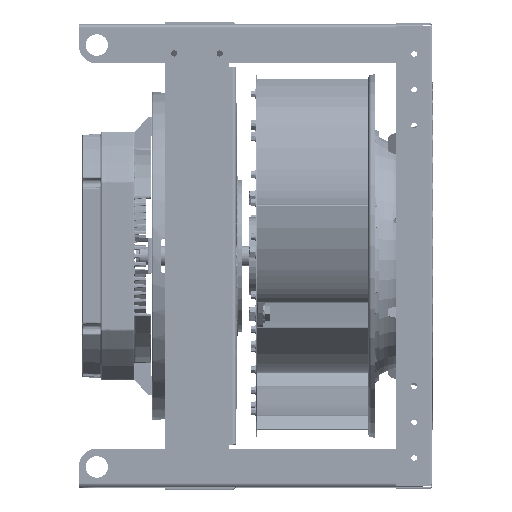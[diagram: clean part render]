
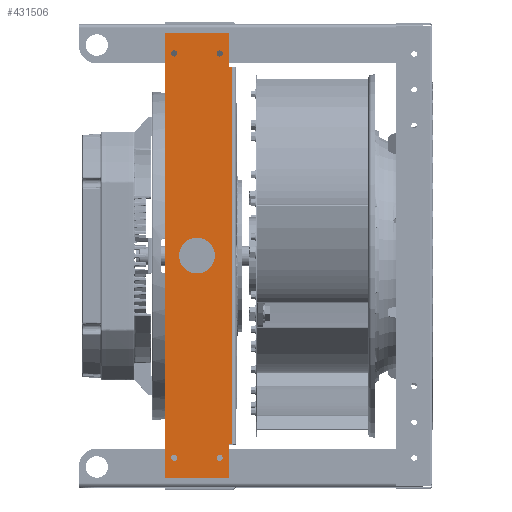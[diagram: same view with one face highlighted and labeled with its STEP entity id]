
A CAD part, top view. The second image highlights one B-rep face of the part: STEP entity #431506.
In plain terms, the highlighted planar face has unit normal (0, 0, 1).
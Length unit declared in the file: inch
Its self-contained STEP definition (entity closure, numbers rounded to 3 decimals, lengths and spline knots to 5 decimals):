
#10918 = DIRECTION ( 'NONE',  ( -1., 0., 0. ) ) ;
#25662 = LINE ( 'NONE', #335370, #49046 ) ;
#29408 = ORIENTED_EDGE ( 'NONE', *, *, #296451, .F. ) ;
#30970 = CIRCLE ( 'NONE', #365415, 1. ) ;
#44627 = VERTEX_POINT ( 'NONE', #279537 ) ;
#48975 = CARTESIAN_POINT ( 'NONE',  ( 0., 0., 0.135 ) ) ;
#48988 = VECTOR ( 'NONE', #316501, 39.37008 ) ;
#49046 = VECTOR ( 'NONE', #55315, 39.37008 ) ;
#53226 = DIRECTION ( 'NONE',  ( -1., 0., 0. ) ) ;
#55315 = DIRECTION ( 'NONE',  ( 1., 0., 0. ) ) ;
#60940 = VECTOR ( 'NONE', #216647, 39.37008 ) ;
#77715 = CARTESIAN_POINT ( 'NONE',  ( -12.465, -1.77, 0.135 ) ) ;
#79412 = EDGE_LOOP ( 'NONE', ( #172827 ) ) ;
#83582 = CARTESIAN_POINT ( 'NONE',  ( 1., 0., 0.135 ) ) ;
#83796 = EDGE_LOOP ( 'NONE', ( #279039 ) ) ;
#84730 = CARTESIAN_POINT ( 'NONE',  ( 11.477, -1.27, 0.135 ) ) ;
#98261 = AXIS2_PLACEMENT_3D ( 'NONE', #145083, #247584, #243096 ) ;
#99263 = CARTESIAN_POINT ( 'NONE',  ( -11.477, -1.27, 0.135 ) ) ;
#102566 = DIRECTION ( 'NONE',  ( 0., 0., 1. ) ) ;
#104379 = LINE ( 'NONE', #209139, #161238 ) ;
#106338 = EDGE_CURVE ( 'NONE', #281893, #391996, #248193, .T. ) ;
#120208 = DIRECTION ( 'NONE',  ( 0., 1., 0. ) ) ;
#121708 = ORIENTED_EDGE ( 'NONE', *, *, #106338, .T. ) ;
#123545 = CARTESIAN_POINT ( 'NONE',  ( 11.305, -1.27, 0.135 ) ) ;
#129902 = VECTOR ( 'NONE', #141141, 39.37008 ) ;
#132178 = EDGE_LOOP ( 'NONE', ( #300287 ) ) ;
#137238 = VECTOR ( 'NONE', #198457, 39.37008 ) ;
#141141 = DIRECTION ( 'NONE',  ( 0., -1., 0. ) ) ;
#143554 = CARTESIAN_POINT ( 'NONE',  ( 0., 0., 0.135 ) ) ;
#145083 = CARTESIAN_POINT ( 'NONE',  ( -11.305, 1.27, 0.135 ) ) ;
#149928 = LINE ( 'NONE', #293363, #205772 ) ;
#151532 = FACE_BOUND ( 'NONE', #83796, .T. ) ;
#155795 = DIRECTION ( 'NONE',  ( 0., 0., 1. ) ) ;
#158231 = FACE_BOUND ( 'NONE', #79412, .T. ) ;
#161238 = VECTOR ( 'NONE', #10918, 39.37008 ) ;
#162044 = CARTESIAN_POINT ( 'NONE',  ( 10.555, 1.9775, 0.135 ) ) ;
#164454 = DIRECTION ( 'NONE',  ( 0., 0., 1. ) ) ;
#165399 = VERTEX_POINT ( 'NONE', #99263 ) ;
#169905 = CIRCLE ( 'NONE', #402685, 0.172 ) ;
#172827 = ORIENTED_EDGE ( 'NONE', *, *, #380525, .F. ) ;
#184270 = LINE ( 'NONE', #318670, #129902 ) ;
#186133 = VERTEX_POINT ( 'NONE', #83582 ) ;
#187428 = CARTESIAN_POINT ( 'NONE',  ( 11.305, 1.27, 0.135 ) ) ;
#189674 = DIRECTION ( 'NONE',  ( 0., 0., 1. ) ) ;
#191934 = DIRECTION ( 'NONE',  ( -1., 0., 0. ) ) ;
#192899 = EDGE_CURVE ( 'NONE', #254579, #269865, #25662, .T. ) ;
#196224 = VERTEX_POINT ( 'NONE', #84730 ) ;
#198457 = DIRECTION ( 'NONE',  ( -1., 0., 0. ) ) ;
#202953 = VERTEX_POINT ( 'NONE', #346324 ) ;
#205772 = VECTOR ( 'NONE', #120208, 39.37008 ) ;
#206379 = AXIS2_PLACEMENT_3D ( 'NONE', #187428, #189674, #191934 ) ;
#209139 = CARTESIAN_POINT ( 'NONE',  ( -12.465, 1.77, 0.135 ) ) ;
#216647 = DIRECTION ( 'NONE',  ( 0., -1., 0. ) ) ;
#219886 = DIRECTION ( 'NONE',  ( -1., 0., 0. ) ) ;
#221032 = CIRCLE ( 'NONE', #206379, 0.172 ) ;
#223848 = CIRCLE ( 'NONE', #310959, 0.172 ) ;
#241565 = DIRECTION ( 'NONE',  ( 1., 0., 0. ) ) ;
#243096 = DIRECTION ( 'NONE',  ( 1., 0., 0. ) ) ;
#247584 = DIRECTION ( 'NONE',  ( 0., 0., 1. ) ) ;
#247642 = ORIENTED_EDGE ( 'NONE', *, *, #441876, .T. ) ;
#248193 = LINE ( 'NONE', #314252, #48988 ) ;
#249529 = EDGE_CURVE ( 'NONE', #186133, #186133, #30970, .T. ) ;
#254579 = VERTEX_POINT ( 'NONE', #435412 ) ;
#262993 = FACE_BOUND ( 'NONE', #395055, .T. ) ;
#263399 = CARTESIAN_POINT ( 'NONE',  ( -10.555, 1.9775, 0.135 ) ) ;
#269865 = VERTEX_POINT ( 'NONE', #286259 ) ;
#271854 = ORIENTED_EDGE ( 'NONE', *, *, #249529, .F. ) ;
#273477 = VERTEX_POINT ( 'NONE', #292815 ) ;
#279039 = ORIENTED_EDGE ( 'NONE', *, *, #358984, .F. ) ;
#279537 = CARTESIAN_POINT ( 'NONE',  ( 12.465, 1.77, 0.135 ) ) ;
#281893 = VERTEX_POINT ( 'NONE', #396257 ) ;
#281959 = ORIENTED_EDGE ( 'NONE', *, *, #339928, .T. ) ;
#282708 = ORIENTED_EDGE ( 'NONE', *, *, #366431, .F. ) ;
#286259 = CARTESIAN_POINT ( 'NONE',  ( 12.465, -1.77, 0.135 ) ) ;
#290438 = PLANE ( 'NONE',  #420249 ) ;
#292815 = CARTESIAN_POINT ( 'NONE',  ( 10.555, 1.9775, 0.135 ) ) ;
#293363 = CARTESIAN_POINT ( 'NONE',  ( 12.465, -1.77, 0.135 ) ) ;
#296451 = EDGE_CURVE ( 'NONE', #165399, #165399, #223848, .T. ) ;
#297165 = FACE_OUTER_BOUND ( 'NONE', #353450, .T. ) ;
#300287 = ORIENTED_EDGE ( 'NONE', *, *, #443388, .F. ) ;
#300725 = ORIENTED_EDGE ( 'NONE', *, *, #192899, .T. ) ;
#301962 = LINE ( 'NONE', #370221, #334299 ) ;
#302175 = CIRCLE ( 'NONE', #98261, 0.172 ) ;
#303404 = DIRECTION ( 'NONE',  ( 1., 0., 0. ) ) ;
#305477 = LINE ( 'NONE', #162044, #137238 ) ;
#307696 = ORIENTED_EDGE ( 'NONE', *, *, #355808, .T. ) ;
#310959 = AXIS2_PLACEMENT_3D ( 'NONE', #424682, #155795, #53226 ) ;
#314252 = CARTESIAN_POINT ( 'NONE',  ( -12.465, 1.77, 0.135 ) ) ;
#316501 = DIRECTION ( 'NONE',  ( -1., 0., 0. ) ) ;
#318670 = CARTESIAN_POINT ( 'NONE',  ( 10.555, 1.9775, 0.135 ) ) ;
#319965 = CARTESIAN_POINT ( 'NONE',  ( 10.555, 1.77, 0.135 ) ) ;
#324579 = DIRECTION ( 'NONE',  ( 0., 0., -1. ) ) ;
#327515 = ORIENTED_EDGE ( 'NONE', *, *, #408986, .T. ) ;
#330658 = CARTESIAN_POINT ( 'NONE',  ( 11.133, 1.27, 0.135 ) ) ;
#331106 = ORIENTED_EDGE ( 'NONE', *, *, #435420, .T. ) ;
#334299 = VECTOR ( 'NONE', #338323, 39.37008 ) ;
#335370 = CARTESIAN_POINT ( 'NONE',  ( -12.465, -1.77, 0.135 ) ) ;
#338323 = DIRECTION ( 'NONE',  ( 0., -1., 0. ) ) ;
#339928 = EDGE_CURVE ( 'NONE', #44627, #448141, #104379, .T. ) ;
#341418 = VERTEX_POINT ( 'NONE', #263399 ) ;
#346324 = CARTESIAN_POINT ( 'NONE',  ( -11.133, 1.27, 0.135 ) ) ;
#353450 = EDGE_LOOP ( 'NONE', ( #247642, #300725, #307696, #281959, #282708, #327515, #331106, #121708 ) ) ;
#355808 = EDGE_CURVE ( 'NONE', #269865, #44627, #149928, .T. ) ;
#358727 = FACE_BOUND ( 'NONE', #132178, .T. ) ;
#358984 = EDGE_CURVE ( 'NONE', #433272, #433272, #221032, .T. ) ;
#365415 = AXIS2_PLACEMENT_3D ( 'NONE', #143554, #102566, #241565 ) ;
#366431 = EDGE_CURVE ( 'NONE', #273477, #448141, #184270, .T. ) ;
#370221 = CARTESIAN_POINT ( 'NONE',  ( -10.555, 1.9775, 0.135 ) ) ;
#380525 = EDGE_CURVE ( 'NONE', #196224, #196224, #169905, .T. ) ;
#389704 = LINE ( 'NONE', #77715, #60940 ) ;
#391294 = CARTESIAN_POINT ( 'NONE',  ( -12.465, 1.77, 0.135 ) ) ;
#391996 = VERTEX_POINT ( 'NONE', #391294 ) ;
#395055 = EDGE_LOOP ( 'NONE', ( #271854 ) ) ;
#396257 = CARTESIAN_POINT ( 'NONE',  ( -10.555, 1.77, 0.135 ) ) ;
#402075 = EDGE_LOOP ( 'NONE', ( #29408 ) ) ;
#402685 = AXIS2_PLACEMENT_3D ( 'NONE', #123545, #164454, #303404 ) ;
#408986 = EDGE_CURVE ( 'NONE', #273477, #341418, #305477, .T. ) ;
#420249 = AXIS2_PLACEMENT_3D ( 'NONE', #48975, #324579, #219886 ) ;
#424682 = CARTESIAN_POINT ( 'NONE',  ( -11.305, -1.27, 0.135 ) ) ;
#427165 = FACE_BOUND ( 'NONE', #402075, .T. ) ;
#431506 = ADVANCED_FACE ( 'NONE', ( #262993, #297165, #427165, #358727, #158231, #151532 ), #290438, .F. ) ;
#433272 = VERTEX_POINT ( 'NONE', #330658 ) ;
#435412 = CARTESIAN_POINT ( 'NONE',  ( -12.465, -1.77, 0.135 ) ) ;
#435420 = EDGE_CURVE ( 'NONE', #341418, #281893, #301962, .T. ) ;
#441876 = EDGE_CURVE ( 'NONE', #391996, #254579, #389704, .T. ) ;
#443388 = EDGE_CURVE ( 'NONE', #202953, #202953, #302175, .T. ) ;
#448141 = VERTEX_POINT ( 'NONE', #319965 ) ;
